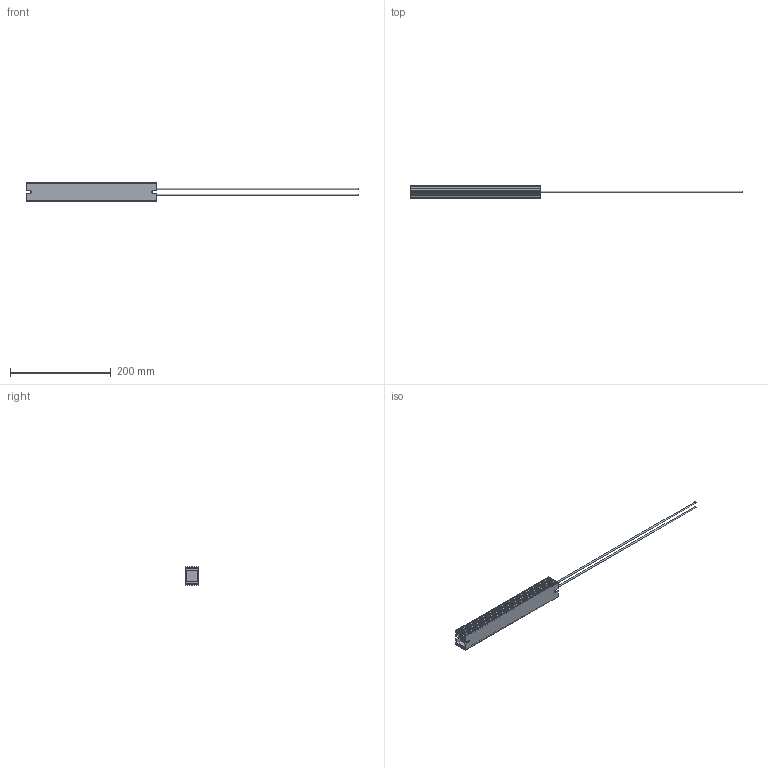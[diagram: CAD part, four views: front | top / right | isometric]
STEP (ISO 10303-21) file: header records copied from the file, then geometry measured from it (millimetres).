
FILE_DESCRIPTION(/* description */ (''),/* implementation_level */ '2;1');
FILE_NAME(/* name */ 'C:\_Vault\Dati\CATALOGO\RFZC\3D\RFZC260.stp',/* time_stamp */ '2014-03-27T17:41:50+01:00',/* author */ ('stefano'),/* organization */ (''),/* preprocessor_version */ 'ST-DEVELOPER v15.2',/* originating_system */ 'Autodesk Inventor 2014',/* authorisation */ '');
FILE_SCHEMA (('AUTOMOTIVE_DESIGN { 1 0 10303 214 3 1 1 }'));
Length unit declared in the file: millimetre
Products named in the file (1): RFZC260
Bounding box: 660 x 27 x 36 mm (x, y, z)
Volume: 217163.5 mm3; surface area: 64719 mm2
Topology: 1 solids, 1 shells, 94 faces, 262 edges, 172 vertices
Faces by surface type: plane 70, cylinder 24
Full cylindrical faces by diameter (mm): 3 x2
Entity records: 3124 total; most frequent: CARTESIAN_POINT 527, ORIENTED_EDGE 520, DIRECTION 506, EDGE_CURVE 260, LINE 204, VECTOR 204, VERTEX_POINT 172, AXIS2_PLACEMENT_3D 151
